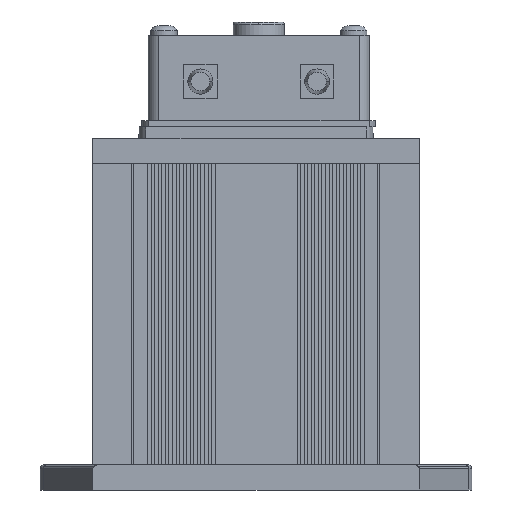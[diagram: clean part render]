
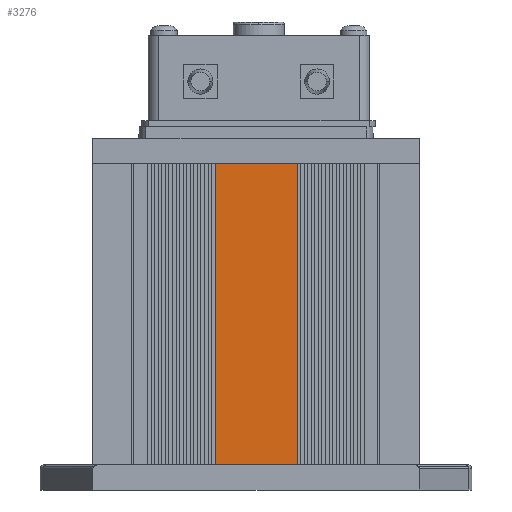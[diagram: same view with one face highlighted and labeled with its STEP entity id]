
A CAD part, left-side view. The second image highlights one B-rep face of the part: STEP entity #3276.
In plain terms, the highlighted planar face has unit normal (-1, 0, 0).
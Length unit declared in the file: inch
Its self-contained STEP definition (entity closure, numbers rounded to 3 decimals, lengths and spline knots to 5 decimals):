
#3276=ADVANCED_FACE('',(#7688),#7689,.T.);
#7688=FACE_OUTER_BOUND('',#13335,.T.);
#7689=PLANE('',#13336);
#13335=EDGE_LOOP('',(#23178,#23179,#23180,#23181));
#13336=AXIS2_PLACEMENT_3D('',#23182,#23183,#23184);
#23178=ORIENTED_EDGE('',*,*,#36237,.T.);
#23179=ORIENTED_EDGE('',*,*,#36468,.F.);
#23180=ORIENTED_EDGE('',*,*,#36345,.F.);
#23181=ORIENTED_EDGE('',*,*,#36466,.T.);
#23182=CARTESIAN_POINT('',(-12.05419,3.06328,1.61092));
#23183=DIRECTION('',(-1.0,0.,-0.0));
#23184=DIRECTION('',(0.,1.0,0.0));
#36237=EDGE_CURVE('',#44126,#44124,#44127,.T.);
#36345=EDGE_CURVE('',#44326,#44328,#44329,.T.);
#36466=EDGE_CURVE('',#44326,#44126,#44492,.T.);
#36468=EDGE_CURVE('',#44328,#44124,#44494,.T.);
#44124=VERTEX_POINT('',#55624);
#44126=VERTEX_POINT('',#55627);
#44127=LINE('',#55628,#55629);
#44326=VERTEX_POINT('',#55929);
#44328=VERTEX_POINT('',#55932);
#44329=LINE('',#55933,#55934);
#44492=LINE('',#56179,#56180);
#44494=LINE('',#56182,#56183);
#55624=CARTESIAN_POINT('',(-12.05419,2.6552,-1.38908));
#55627=CARTESIAN_POINT('',(-12.05419,3.47135,-1.38908));
#55628=CARTESIAN_POINT('',(-12.05419,2.86808,-1.38908));
#55629=VECTOR('',#67013,1.0);
#55929=CARTESIAN_POINT('',(-12.05419,3.47135,1.61092));
#55932=CARTESIAN_POINT('',(-12.05419,2.6552,1.61092));
#55933=CARTESIAN_POINT('',(-12.05419,2.86808,1.61092));
#55934=VECTOR('',#67116,1.0);
#56179=CARTESIAN_POINT('',(-12.05419,3.47135,1.61092));
#56180=VECTOR('',#67199,1.0);
#56182=CARTESIAN_POINT('',(-12.05419,2.6552,1.61092));
#56183=VECTOR('',#67200,1.0);
#67013=DIRECTION('',(0.,-1.0,0.0));
#67116=DIRECTION('',(0.,-1.0,0.0));
#67199=DIRECTION('',(0.0,0.0,-1.0));
#67200=DIRECTION('',(0.0,0.0,-1.0));
